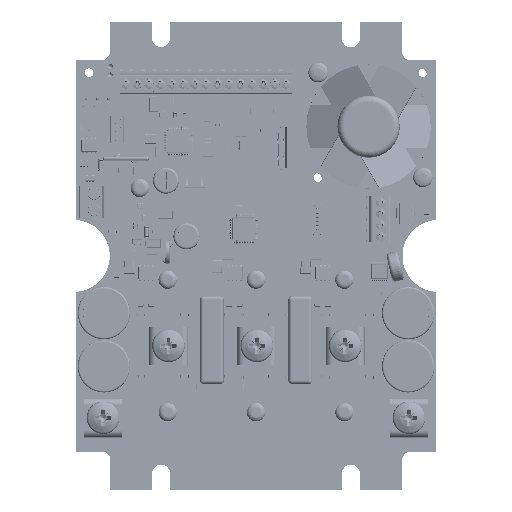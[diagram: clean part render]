
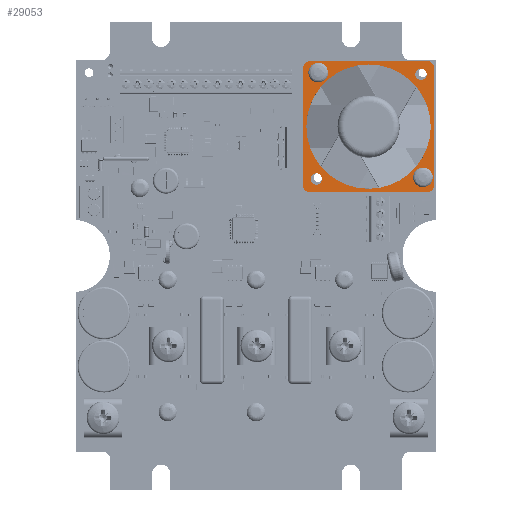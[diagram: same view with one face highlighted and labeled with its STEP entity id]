
A CAD part, top view. The second image highlights one B-rep face of the part: STEP entity #29053.
In plain terms, the highlighted planar face has unit normal (0, 0, 1).
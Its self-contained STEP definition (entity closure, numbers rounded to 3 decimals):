
#29053=ADVANCED_FACE('',(#58797,#58798,#58799,#58800,#58801,#58802),#58803,.T.);
#58797=FACE_OUTER_BOUND('',#115455,.T.);
#58798=FACE_BOUND('',#115456,.T.);
#58799=FACE_BOUND('',#115457,.T.);
#58800=FACE_BOUND('',#115458,.T.);
#58801=FACE_BOUND('',#115459,.T.);
#58802=FACE_BOUND('',#115460,.T.);
#58803=PLANE('',#115461);
#115455=EDGE_LOOP('',(#187672,#187673,#187674,#187675,#187676,#187677,#187678,#187679));
#115456=EDGE_LOOP('',(#187680,#187681));
#115457=EDGE_LOOP('',(#187682,#187683));
#115458=EDGE_LOOP('',(#187684,#187685));
#115459=EDGE_LOOP('',(#187686,#187687));
#115460=EDGE_LOOP('',(#187688,#187689));
#115461=AXIS2_PLACEMENT_3D('',#187690,#187691,#187692);
#187672=ORIENTED_EDGE('',*,*,#234974,.T.);
#187673=ORIENTED_EDGE('',*,*,#234975,.F.);
#187674=ORIENTED_EDGE('',*,*,#234976,.T.);
#187675=ORIENTED_EDGE('',*,*,#234977,.F.);
#187676=ORIENTED_EDGE('',*,*,#234978,.T.);
#187677=ORIENTED_EDGE('',*,*,#234979,.F.);
#187678=ORIENTED_EDGE('',*,*,#234980,.T.);
#187679=ORIENTED_EDGE('',*,*,#234981,.F.);
#187680=ORIENTED_EDGE('',*,*,#234869,.T.);
#187681=ORIENTED_EDGE('',*,*,#234824,.T.);
#187682=ORIENTED_EDGE('',*,*,#234743,.T.);
#187683=ORIENTED_EDGE('',*,*,#234982,.T.);
#187684=ORIENTED_EDGE('',*,*,#234738,.T.);
#187685=ORIENTED_EDGE('',*,*,#234983,.T.);
#187686=ORIENTED_EDGE('',*,*,#234733,.T.);
#187687=ORIENTED_EDGE('',*,*,#234984,.T.);
#187688=ORIENTED_EDGE('',*,*,#234728,.T.);
#187689=ORIENTED_EDGE('',*,*,#234985,.T.);
#187690=CARTESIAN_POINT('',(0.0,0.0,10.0));
#187691=DIRECTION('',(0.0,0.0,1.0));
#187692=DIRECTION('',(1.0,-0.0,0.0));
#234728=EDGE_CURVE('',#277770,#277774,#277776,.T.);
#234733=EDGE_CURVE('',#277779,#277783,#277785,.T.);
#234738=EDGE_CURVE('',#277788,#277792,#277794,.T.);
#234743=EDGE_CURVE('',#277797,#277801,#277803,.T.);
#234824=EDGE_CURVE('',#277956,#277954,#277957,.T.);
#234869=EDGE_CURVE('',#277954,#277956,#278032,.T.);
#234974=EDGE_CURVE('',#278164,#278165,#278166,.T.);
#234975=EDGE_CURVE('',#278167,#278165,#278168,.T.);
#234976=EDGE_CURVE('',#278167,#278169,#278170,.T.);
#234977=EDGE_CURVE('',#278171,#278169,#278172,.T.);
#234978=EDGE_CURVE('',#278171,#278173,#278174,.T.);
#234979=EDGE_CURVE('',#278175,#278173,#278176,.T.);
#234980=EDGE_CURVE('',#278175,#278177,#278178,.T.);
#234981=EDGE_CURVE('',#278164,#278177,#278179,.T.);
#234982=EDGE_CURVE('',#277801,#277797,#278180,.T.);
#234983=EDGE_CURVE('',#277792,#277788,#278181,.T.);
#234984=EDGE_CURVE('',#277783,#277779,#278182,.T.);
#234985=EDGE_CURVE('',#277774,#277770,#278183,.T.);
#277770=VERTEX_POINT('',#347640);
#277774=VERTEX_POINT('',#347645);
#277776=CIRCLE('',#347648,1.75);
#277779=VERTEX_POINT('',#347651);
#277783=VERTEX_POINT('',#347656);
#277785=CIRCLE('',#347659,1.75);
#277788=VERTEX_POINT('',#347662);
#277792=VERTEX_POINT('',#347667);
#277794=CIRCLE('',#347670,1.75);
#277797=VERTEX_POINT('',#347673);
#277801=VERTEX_POINT('',#347678);
#277803=CIRCLE('',#347681,1.75);
#277954=VERTEX_POINT('',#347858);
#277956=VERTEX_POINT('',#347861);
#277957=CIRCLE('',#347862,19.0);
#278032=CIRCLE('',#347952,19.0);
#278164=VERTEX_POINT('',#348119);
#278165=VERTEX_POINT('',#348120);
#278166=CIRCLE('',#348121,2.0);
#278167=VERTEX_POINT('',#348122);
#278168=LINE('',#348123,#348124);
#278169=VERTEX_POINT('',#348125);
#278170=CIRCLE('',#348126,2.0);
#278171=VERTEX_POINT('',#348127);
#278172=LINE('',#348128,#348129);
#278173=VERTEX_POINT('',#348130);
#278174=CIRCLE('',#348131,2.0);
#278175=VERTEX_POINT('',#348132);
#278176=LINE('',#348133,#348134);
#278177=VERTEX_POINT('',#348135);
#278178=CIRCLE('',#348136,2.0);
#278179=LINE('',#348137,#348138);
#278180=CIRCLE('',#348139,1.75);
#278181=CIRCLE('',#348140,1.75);
#278182=CIRCLE('',#348141,1.75);
#278183=CIRCLE('',#348142,1.75);
#347640=CARTESIAN_POINT('',(-17.75,-16.0,10.0));
#347645=CARTESIAN_POINT('',(-14.25,-16.0,10.0));
#347648=AXIS2_PLACEMENT_3D('',#392848,#392849,#392850);
#347651=CARTESIAN_POINT('',(14.25,-16.0,10.0));
#347656=CARTESIAN_POINT('',(17.75,-16.0,10.0));
#347659=AXIS2_PLACEMENT_3D('',#392856,#392857,#392858);
#347662=CARTESIAN_POINT('',(-17.75,16.0,10.0));
#347667=CARTESIAN_POINT('',(-14.25,16.0,10.0));
#347670=AXIS2_PLACEMENT_3D('',#392864,#392865,#392866);
#347673=CARTESIAN_POINT('',(14.25,16.0,10.0));
#347678=CARTESIAN_POINT('',(17.75,16.0,10.0));
#347681=AXIS2_PLACEMENT_3D('',#392872,#392873,#392874);
#347858=CARTESIAN_POINT('',(-19.0,0.0,10.0));
#347861=CARTESIAN_POINT('',(19.0,0.,10.0));
#347862=AXIS2_PLACEMENT_3D('',#393037,#393038,#393039);
#347952=AXIS2_PLACEMENT_3D('',#393133,#393134,#393135);
#348119=CARTESIAN_POINT('',(20.0,18.0,10.0));
#348120=CARTESIAN_POINT('',(18.0,20.0,10.0));
#348121=AXIS2_PLACEMENT_3D('',#393270,#393271,#393272);
#348122=CARTESIAN_POINT('',(-18.0,20.0,10.0));
#348123=CARTESIAN_POINT('',(-18.0,20.0,10.0));
#348124=VECTOR('',#393273,36.0);
#348125=CARTESIAN_POINT('',(-20.0,18.0,10.0));
#348126=AXIS2_PLACEMENT_3D('',#393274,#393275,#393276);
#348127=CARTESIAN_POINT('',(-20.0,-18.0,10.0));
#348128=CARTESIAN_POINT('',(-20.0,-18.0,10.0));
#348129=VECTOR('',#393277,36.0);
#348130=CARTESIAN_POINT('',(-18.0,-20.0,10.0));
#348131=AXIS2_PLACEMENT_3D('',#393278,#393279,#393280);
#348132=CARTESIAN_POINT('',(18.0,-20.0,10.0));
#348133=CARTESIAN_POINT('',(18.0,-20.0,10.0));
#348134=VECTOR('',#393281,36.0);
#348135=CARTESIAN_POINT('',(20.0,-18.0,10.0));
#348136=AXIS2_PLACEMENT_3D('',#393282,#393283,#393284);
#348137=CARTESIAN_POINT('',(20.0,18.0,10.0));
#348138=VECTOR('',#393285,36.0);
#348139=AXIS2_PLACEMENT_3D('',#393286,#393287,#393288);
#348140=AXIS2_PLACEMENT_3D('',#393289,#393290,#393291);
#348141=AXIS2_PLACEMENT_3D('',#393292,#393293,#393294);
#348142=AXIS2_PLACEMENT_3D('',#393295,#393296,#393297);
#392848=CARTESIAN_POINT('',(-16.0,-16.0,10.0));
#392849=DIRECTION('',(0.0,0.0,-1.0));
#392850=DIRECTION('',(-1.0,0.0,0.0));
#392856=CARTESIAN_POINT('',(16.0,-16.0,10.0));
#392857=DIRECTION('',(0.0,0.0,-1.0));
#392858=DIRECTION('',(-1.0,0.0,0.0));
#392864=CARTESIAN_POINT('',(-16.0,16.0,10.0));
#392865=DIRECTION('',(0.0,0.0,-1.0));
#392866=DIRECTION('',(-1.0,0.0,0.0));
#392872=CARTESIAN_POINT('',(16.0,16.0,10.0));
#392873=DIRECTION('',(0.0,0.0,-1.0));
#392874=DIRECTION('',(-1.0,0.0,0.0));
#393037=CARTESIAN_POINT('',(0.0,0.0,10.0));
#393038=DIRECTION('',(0.0,0.0,-1.0));
#393039=DIRECTION('',(-1.0,0.0,0.0));
#393133=CARTESIAN_POINT('',(0.0,0.0,10.0));
#393134=DIRECTION('',(0.0,0.0,-1.0));
#393135=DIRECTION('',(-1.0,0.0,0.0));
#393270=CARTESIAN_POINT('',(18.0,18.0,10.0));
#393271=DIRECTION('',(0.0,-0.0,1.0));
#393272=DIRECTION('',(1.0,0.,0.0));
#393273=DIRECTION('',(1.0,0.0,0.0));
#393274=CARTESIAN_POINT('',(-18.0,18.0,10.0));
#393275=DIRECTION('',(0.0,0.0,1.0));
#393276=DIRECTION('',(0.,1.0,0.0));
#393277=DIRECTION('',(0.0,1.0,0.0));
#393278=CARTESIAN_POINT('',(-18.0,-18.0,10.0));
#393279=DIRECTION('',(0.0,0.0,1.0));
#393280=DIRECTION('',(-1.0,0.,0.0));
#393281=DIRECTION('',(-1.0,0.0,0.0));
#393282=CARTESIAN_POINT('',(18.0,-18.0,10.0));
#393283=DIRECTION('',(0.0,0.0,1.0));
#393284=DIRECTION('',(0.,-1.0,0.0));
#393285=DIRECTION('',(0.0,-1.0,0.0));
#393286=CARTESIAN_POINT('',(16.0,16.0,10.0));
#393287=DIRECTION('',(0.0,0.0,-1.0));
#393288=DIRECTION('',(-1.0,0.0,0.0));
#393289=CARTESIAN_POINT('',(-16.0,16.0,10.0));
#393290=DIRECTION('',(0.0,0.0,-1.0));
#393291=DIRECTION('',(-1.0,0.0,0.0));
#393292=CARTESIAN_POINT('',(16.0,-16.0,10.0));
#393293=DIRECTION('',(0.0,0.0,-1.0));
#393294=DIRECTION('',(-1.0,0.0,0.0));
#393295=CARTESIAN_POINT('',(-16.0,-16.0,10.0));
#393296=DIRECTION('',(0.0,0.0,-1.0));
#393297=DIRECTION('',(-1.0,0.0,0.0));
